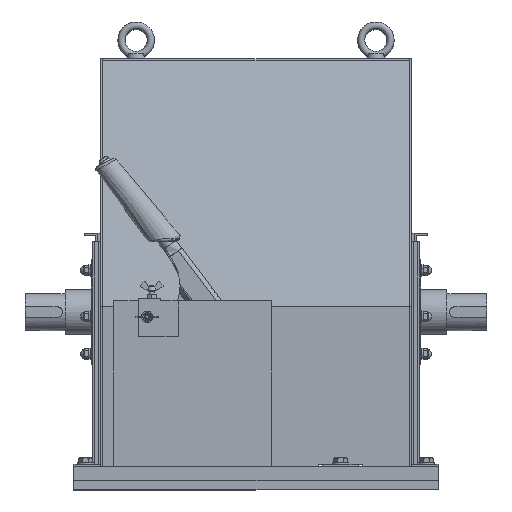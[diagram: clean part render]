
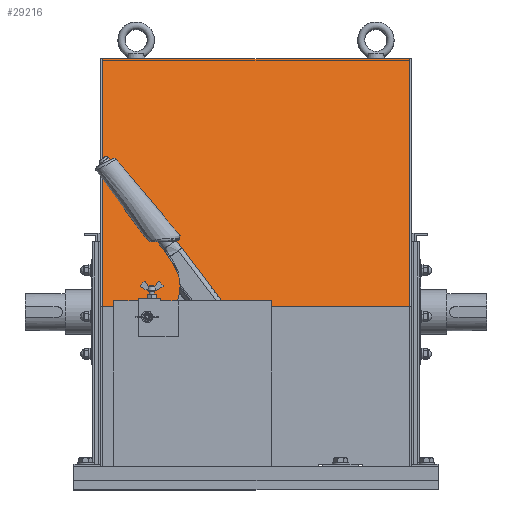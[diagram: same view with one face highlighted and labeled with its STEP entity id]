
A CAD part, top view. The second image highlights one B-rep face of the part: STEP entity #29216.
In plain terms, the highlighted planar face has unit normal (0, 0.276, 0.961).
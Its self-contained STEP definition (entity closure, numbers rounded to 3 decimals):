
#842 = VERTEX_POINT ( 'NONE', #18084 ) ;
#1243 = CARTESIAN_POINT ( 'NONE',  ( 87.3, 6., 301. ) ) ;
#1248 = LINE ( 'NONE', #30916, #6465 ) ;
#1828 = FACE_OUTER_BOUND ( 'NONE', #8892, .T. ) ;
#2230 = VERTEX_POINT ( 'NONE', #16711 ) ;
#2311 = LINE ( 'NONE', #31797, #21226 ) ;
#3379 = VERTEX_POINT ( 'NONE', #7326 ) ;
#3525 = LINE ( 'NONE', #9170, #14471 ) ;
#4331 = LINE ( 'NONE', #1243, #12667 ) ;
#6105 = EDGE_CURVE ( 'NONE', #842, #23503, #4331, .T. ) ;
#6465 = VECTOR ( 'NONE', #18947, 1000. ) ;
#7326 = CARTESIAN_POINT ( 'NONE',  ( 432.7, 285., 221. ) ) ;
#7656 = PLANE ( 'NONE',  #17541 ) ;
#8892 = EDGE_LOOP ( 'NONE', ( #10849, #20411, #25221, #35218 ) ) ;
#9170 = CARTESIAN_POINT ( 'NONE',  ( 432.7, 285., 221. ) ) ;
#9194 = EDGE_CURVE ( 'NONE', #2230, #23503, #2311, .T. ) ;
#10849 = ORIENTED_EDGE ( 'NONE', *, *, #6105, .T. ) ;
#12667 = VECTOR ( 'NONE', #24698, 1000. ) ;
#13098 = EDGE_CURVE ( 'NONE', #3379, #2230, #1248, .T. ) ;
#14166 = DIRECTION ( 'NONE',  ( -1., 0., 0. ) ) ;
#14471 = VECTOR ( 'NONE', #35533, 1000. ) ;
#16711 = CARTESIAN_POINT ( 'NONE',  ( 432.7, 6., 301. ) ) ;
#17541 = AXIS2_PLACEMENT_3D ( 'NONE', #22967, #31323, #22788 ) ;
#18084 = CARTESIAN_POINT ( 'NONE',  ( 87.3, 285., 221. ) ) ;
#18918 = CARTESIAN_POINT ( 'NONE',  ( 87.3, 6., 301. ) ) ;
#18947 = DIRECTION ( 'NONE',  ( 0., -0.961, 0.276 ) ) ;
#20411 = ORIENTED_EDGE ( 'NONE', *, *, #9194, .F. ) ;
#21226 = VECTOR ( 'NONE', #14166, 1000. ) ;
#22788 = DIRECTION ( 'NONE',  ( 0., 0.961, -0.276 ) ) ;
#22967 = CARTESIAN_POINT ( 'NONE',  ( 432.7, 6., 301. ) ) ;
#23503 = VERTEX_POINT ( 'NONE', #18918 ) ;
#24698 = DIRECTION ( 'NONE',  ( 0., -0.961, 0.276 ) ) ;
#25221 = ORIENTED_EDGE ( 'NONE', *, *, #13098, .F. ) ;
#25229 = EDGE_CURVE ( 'NONE', #3379, #842, #3525, .T. ) ;
#29216 = ADVANCED_FACE ( 'NONE', ( #1828 ), #7656, .F. ) ;
#30916 = CARTESIAN_POINT ( 'NONE',  ( 432.7, 6., 301. ) ) ;
#31323 = DIRECTION ( 'NONE',  ( 0., -0.276, -0.961 ) ) ;
#31797 = CARTESIAN_POINT ( 'NONE',  ( 432.7, 6., 301. ) ) ;
#35218 = ORIENTED_EDGE ( 'NONE', *, *, #25229, .T. ) ;
#35533 = DIRECTION ( 'NONE',  ( -1., 0., 0. ) ) ;
